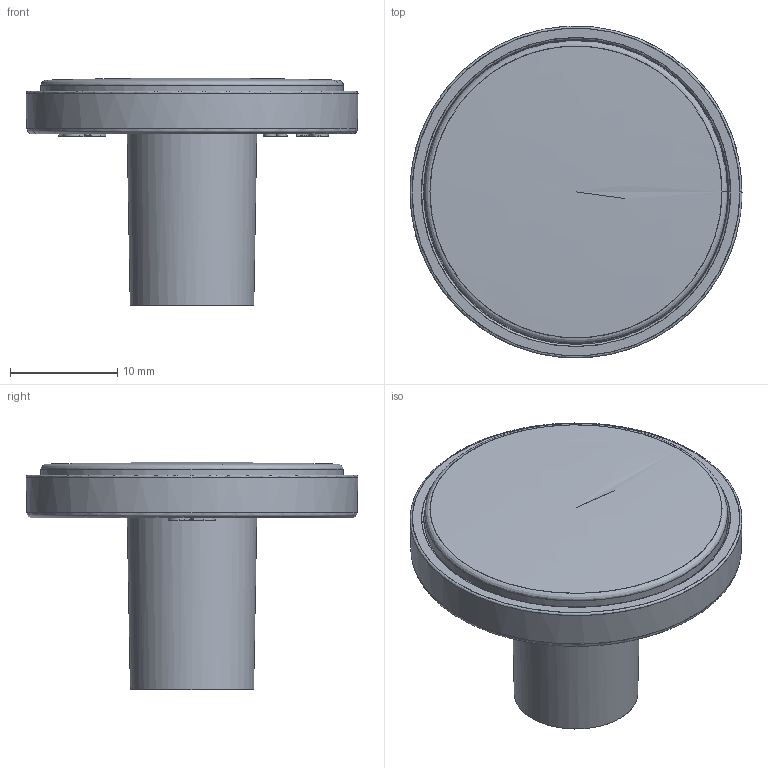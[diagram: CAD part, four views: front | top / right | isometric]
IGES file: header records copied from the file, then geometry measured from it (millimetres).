
Start section: C
Global section: file name: 8343-3.igs; native system: By Siemens PLM Incorporated; preprocessor: XPlus GENERIC/IGES 16.0.42; author: Author; organization: Title; date: 20220410.100720; units: millimetre
Bounding box: 30.91 x 30.88 x 21.2 mm (x, y, z)
Surface area: 5242.4 mm2 (no closed solid volume)
Topology: 0 solids, 0 shells, 200 faces, 1315 edges, 1314 vertices
Faces by surface type: bspline 200
